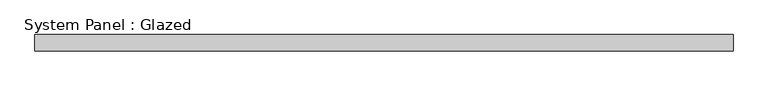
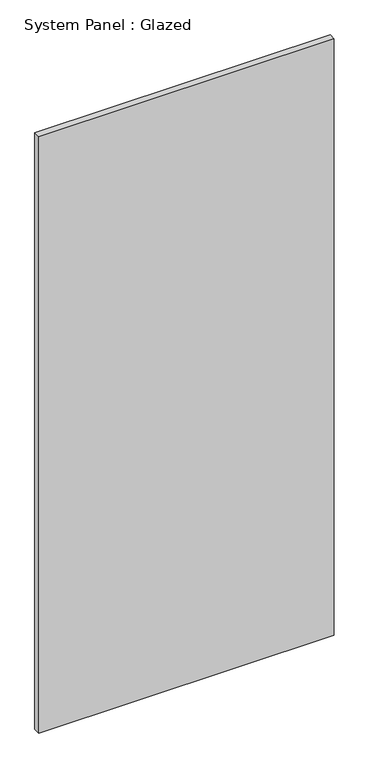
"""IFC4 building model written with IfcOpenShell, lengths in millimetres: plate geometry, System Panel : Glazed."""

from ifc_helpers import new_model, si_unit, origin, origin_with_axes, place, context, project, spatial, polyline, outline, extrude, source, transform, mapped, element, save


def system_panel_glazed_d847cfee(model_context):
    return source(origin(), model_context, "Body", "SweptSolid", [
        extrude(outline(polyline([(549.275, 19.05), (-549.275, 19.05), (-549.275, 44.45), (549.275, 44.45), (549.275, 19.05)])), origin_with_axes(), (0.0, 0.0, 1.0), 2343.15),
    ])


if __name__ == "__main__":
    model = new_model("IFC4")
    model_context = context("Model", 3, world=origin())
    ifc_project = project(units=[si_unit("LENGTHUNIT", "METRE", prefix="MILLI")], contexts=[model_context])
    site = spatial("IfcSite", under=ifc_project)
    building = spatial("IfcBuilding", under=site)
    placement = place(None, origin())
    system_panel_glazed_shape = system_panel_glazed_d847cfee(model_context)
    element("IfcPlate", 1, ObjectType="System Panel : Glazed", at=placement, inside=building, context=model_context, shape_type="MappedRepresentation", body=[
        mapped(system_panel_glazed_shape, transform((0.0, 0.0, 0.0), x_axis=(1.0, 0.0, 0.0), y_axis=(0.0, 1.0, 0.0), z_axis=(0.0, 0.0, 1.0))),
    ])
    save(model, "model.ifc")
